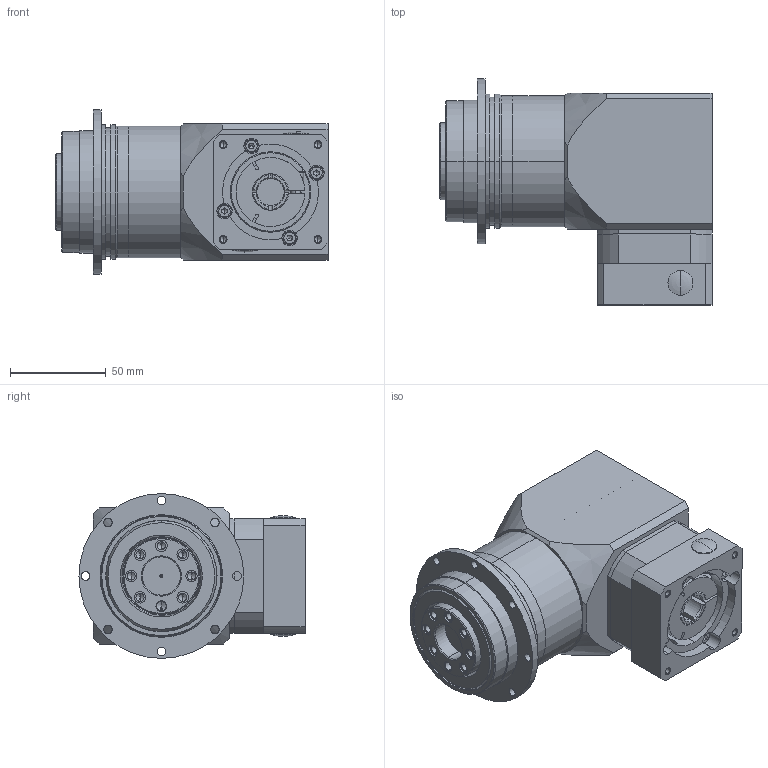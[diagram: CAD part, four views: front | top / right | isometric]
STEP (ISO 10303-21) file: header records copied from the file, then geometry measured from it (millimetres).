
FILE_DESCRIPTION (( 'STEP AP203' ), '1' );
FILE_NAME ('PGYZ064-L2-14-50-70-M4.STEP', '2020-06-12T03:08:41', ( 'ylmfeng' ), ( 'ylmfeng.com' ), 'SwSTEP 2.0', 'SolidWorks 2014', '' );
FILE_SCHEMA (( 'CONFIG_CONTROL_DESIGN' ));
Length unit declared in the file: millimetre
Products named in the file (1): PGYZ064-L2-14-50-70-M4
Bounding box: 142 x 118 x 86 mm (x, y, z)
Volume: 690583.6 mm3; surface area: 126026.8 mm2
Topology: 25 solids, 25 shells, 737 faces, 1773 edges, 1094 vertices
Faces by surface type: plane 294, cylinder 245, cone 128, torus 42, bspline 28
Entity records: 22403 total; most frequent: CARTESIAN_POINT 5167, DIRECTION 3733, ORIENTED_EDGE 3434, EDGE_CURVE 1717, AXIS2_PLACEMENT_3D 1449, VERTEX_POINT 1094, EDGE_LOOP 845, LINE 835
